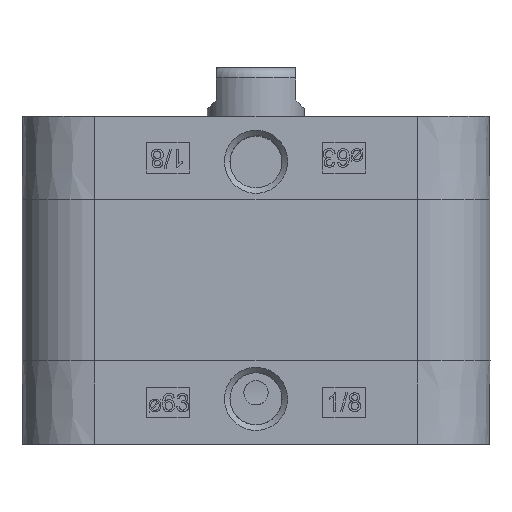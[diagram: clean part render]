
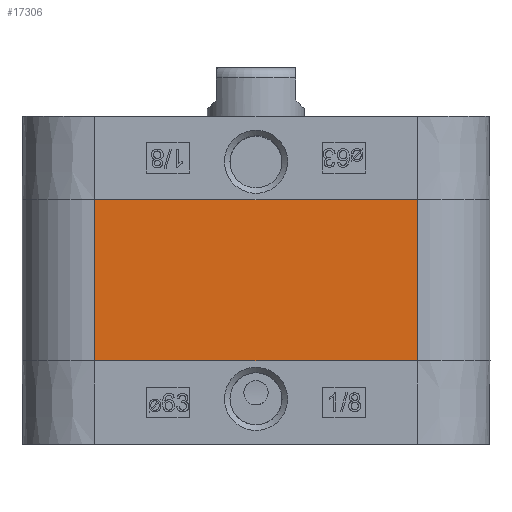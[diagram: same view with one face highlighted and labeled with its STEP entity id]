
A CAD part, left-side view. The second image highlights one B-rep face of the part: STEP entity #17306.
In plain terms, the highlighted planar face has unit normal (-1, 0, 0).
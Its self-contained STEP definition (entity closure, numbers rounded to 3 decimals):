
#1031=PLANE('',#18419);
#1953=LINE('',#26963,#3041);
#2007=LINE('',#27187,#3095);
#2061=LINE('',#27412,#3149);
#2062=LINE('',#27413,#3150);
#3041=VECTOR('',#21131,1000.);
#3095=VECTOR('',#21303,1000.);
#3149=VECTOR('',#21475,1000.);
#3150=VECTOR('',#21476,1000.);
#6515=ORIENTED_EDGE('',*,*,#8481,.T.);
#6516=ORIENTED_EDGE('',*,*,#8705,.F.);
#6517=ORIENTED_EDGE('',*,*,#8593,.T.);
#6518=ORIENTED_EDGE('',*,*,#8706,.T.);
#8481=EDGE_CURVE('',#9874,#9872,#1953,.T.);
#8593=EDGE_CURVE('',#9985,#9986,#2007,.T.);
#8705=EDGE_CURVE('',#9985,#9872,#2061,.T.);
#8706=EDGE_CURVE('',#9986,#9874,#2062,.T.);
#9872=VERTEX_POINT('',#26961);
#9874=VERTEX_POINT('',#26964);
#9985=VERTEX_POINT('',#27188);
#9986=VERTEX_POINT('',#27189);
#11308=EDGE_LOOP('',(#6515,#6516,#6517,#6518));
#12212=FACE_BOUND('',#11308,.T.);
#17306=ADVANCED_FACE('',(#12212),#1031,.T.);
#18419=AXIS2_PLACEMENT_3D('',#27411,#21473,#21474);
#21131=DIRECTION('',(0.,1.,0.));
#21303=DIRECTION('',(0.,-1.,0.));
#21473=DIRECTION('',(-1.,0.,0.));
#21474=DIRECTION('',(0.,0.,1.));
#21475=DIRECTION('',(0.,0.,1.));
#21476=DIRECTION('',(0.,0.,1.));
#26961=CARTESIAN_POINT('',(-38.5,26.5,26.5));
#26963=CARTESIAN_POINT('',(-38.5,-26.5,26.5));
#26964=CARTESIAN_POINT('',(-38.5,-26.5,26.5));
#27187=CARTESIAN_POINT('',(-38.5,26.5,0.));
#27188=CARTESIAN_POINT('',(-38.5,26.5,0.));
#27189=CARTESIAN_POINT('',(-38.5,-26.5,0.));
#27411=CARTESIAN_POINT('',(-38.5,-26.5,0.));
#27412=CARTESIAN_POINT('',(-38.5,26.5,0.));
#27413=CARTESIAN_POINT('',(-38.5,-26.5,0.));
